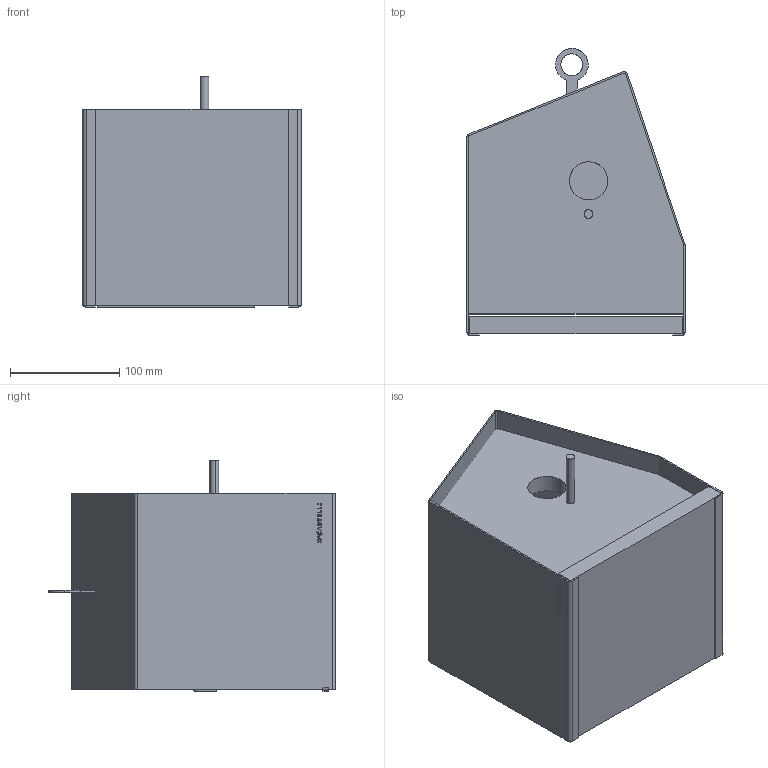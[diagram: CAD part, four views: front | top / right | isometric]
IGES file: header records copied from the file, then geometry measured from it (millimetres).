
Start section: SolidWorks IGES file using analytic representation for surfaces
Global section: file name: \\utenti\Dati Utenti\Tecnico\DC\2D - 3D per sito\3D\DeCastelli-3D-Nest House N°1.igs; native system: SolidWorks 2022; preprocessor: SolidWorks 2022; author: Simonep; date: 240729.120326; units: millimetre
Bounding box: 199.94 x 262.97 x 212 mm (x, y, z)
Surface area: 444462.1 mm2 (no closed solid volume)
Topology: 0 solids, 0 shells, 181 faces, 1764 edges, 1764 vertices
Faces by surface type: bspline 144, revolution 37
